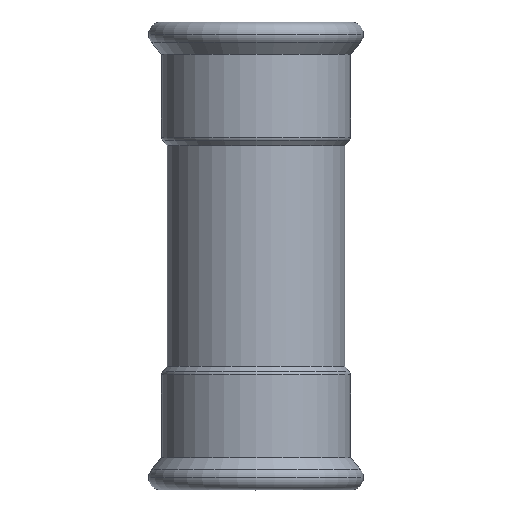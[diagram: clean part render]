
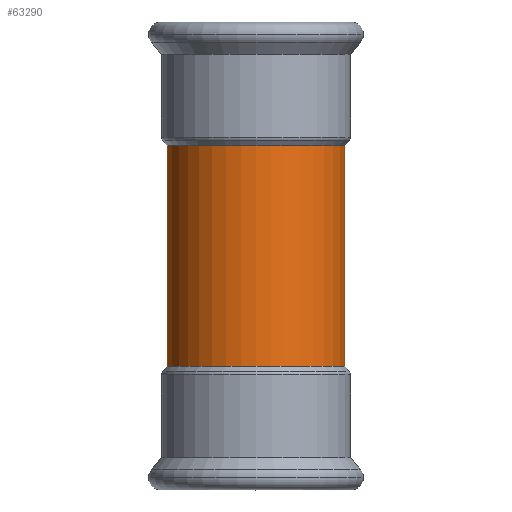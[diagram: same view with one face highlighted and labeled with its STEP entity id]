
A CAD part, top view. The second image highlights one B-rep face of the part: STEP entity #63290.
In plain terms, the highlighted cylindrical face has radius 27 mm (diameter 54 mm), a partial arc.
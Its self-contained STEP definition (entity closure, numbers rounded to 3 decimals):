
#7960=CARTESIAN_POINT('',(-96.193,76.409,
33.5));
#7970=DIRECTION('',(0.,0.,1.));
#7980=DIRECTION('',(1.,0.,0.));
#7990=AXIS2_PLACEMENT_3D('',#7960,#7970,#7980);
#8000=CYLINDRICAL_SURFACE('',#7990,27.);
#30530=CARTESIAN_POINT('',(-123.193,76.409,
33.5));
#30540=DIRECTION('',(0.,0.,1.));
#30550=VECTOR('',#30540,1.);
#30560=LINE('',#30530,#30550);
#30570=CARTESIAN_POINT('',(-123.193,76.409,
-33.5));
#30580=VERTEX_POINT('',#30570);
#30590=CARTESIAN_POINT('',(-123.193,76.409,
33.5));
#30600=VERTEX_POINT('',#30590);
#30610=EDGE_CURVE('',#30580,#30600,#30560,.T.);
#30630=CARTESIAN_POINT('',(-96.193,76.409,
33.5));
#30640=DIRECTION('',(0.,0.,1.));
#30650=DIRECTION('',(1.,0.,0.));
#30660=AXIS2_PLACEMENT_3D('',#30630,#30640,#30650);
#30670=CIRCLE('',#30660,27.);
#30680=CARTESIAN_POINT('',(-69.193,76.409,
33.5));
#30690=VERTEX_POINT('',#30680);
#30720=CARTESIAN_POINT('',(-69.193,76.409,
33.5));
#30730=DIRECTION('',(0.,0.,1.));
#30740=VECTOR('',#30730,1.);
#30750=LINE('',#30720,#30740);
#30760=CARTESIAN_POINT('',(-69.193,76.409,
-33.5));
#30770=VERTEX_POINT('',#30760);
#30780=EDGE_CURVE('',#30770,#30690,#30750,.T.);
#30800=CARTESIAN_POINT('',(-96.193,76.409,
-33.5));
#30810=DIRECTION('',(0.,0.,-1.));
#30820=DIRECTION('',(1.,0.,0.));
#30830=AXIS2_PLACEMENT_3D('',#30800,#30810,#30820);
#30840=CIRCLE('',#30830,27.);
#62990=EDGE_CURVE('',#30690,#30600,#30670,.T.);
#63220=ORIENTED_EDGE('',*,*,#62990,.F.);
#63230=ORIENTED_EDGE('',*,*,#30610,.T.);
#63240=EDGE_CURVE('',#30580,#30770,#30840,.T.);
#63250=ORIENTED_EDGE('',*,*,#63240,.F.);
#63260=ORIENTED_EDGE('',*,*,#30780,.F.);
#63270=EDGE_LOOP('',(#63260,#63250,#63230,#63220));
#63280=FACE_OUTER_BOUND('',#63270,.T.);
#63290=ADVANCED_FACE('',(#63280),#8000,.T.);
